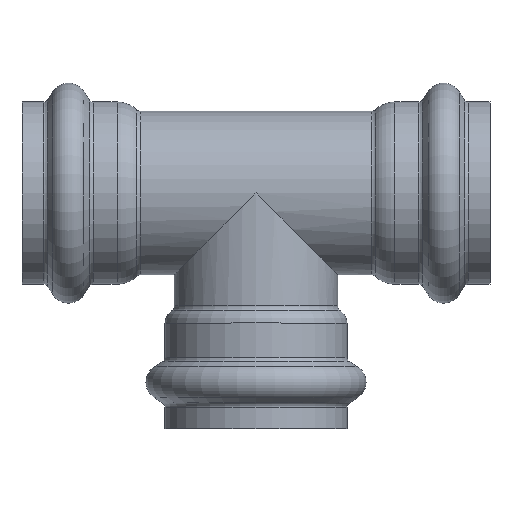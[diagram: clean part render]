
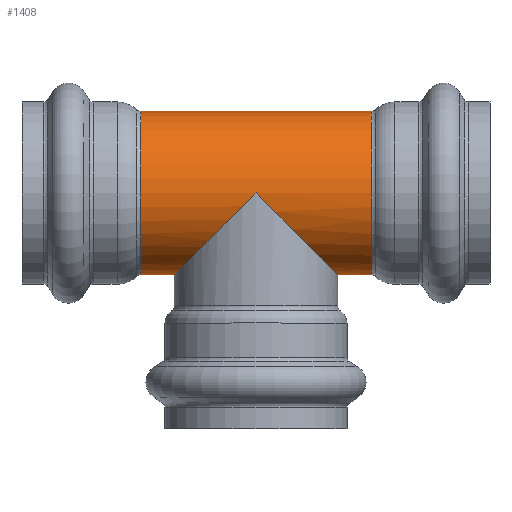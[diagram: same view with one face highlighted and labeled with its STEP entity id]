
A CAD part, top view. The second image highlights one B-rep face of the part: STEP entity #1408.
In plain terms, the highlighted cylindrical face has radius 24.13 mm (diameter 48.26 mm), a full revolution.
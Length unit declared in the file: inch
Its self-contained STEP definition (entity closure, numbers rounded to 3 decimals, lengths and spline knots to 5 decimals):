
#134=FACE_OUTER_BOUND('',#197,.T.);
#197=EDGE_LOOP('',(#1132,#1133,#1134,#1135,#1136,#1137,#1138,#1139,#1140,
#1141,#1142,#1143,#1144,#1145));
#334=CIRCLE('',#1613,0.95);
#335=CIRCLE('',#1614,0.95);
#336=CIRCLE('',#1615,0.95);
#337=CIRCLE('',#1617,0.95);
#338=CIRCLE('',#1618,0.95);
#339=CIRCLE('',#1619,0.95);
#420=LINE('',#2574,#450);
#421=LINE('',#2575,#451);
#450=VECTOR('',#2076,0.95);
#451=VECTOR('',#2077,0.95);
#464=ELLIPSE('',#1487,1.3435,0.95);
#465=ELLIPSE('',#1488,1.3435,0.95);
#466=ELLIPSE('',#1489,1.3435,0.95);
#467=ELLIPSE('',#1490,1.3435,0.95);
#492=VERTEX_POINT('',#2340);
#493=VERTEX_POINT('',#2341);
#494=VERTEX_POINT('',#2343);
#495=VERTEX_POINT('',#2345);
#572=VERTEX_POINT('',#2561);
#573=VERTEX_POINT('',#2563);
#574=VERTEX_POINT('',#2565);
#575=VERTEX_POINT('',#2569);
#576=VERTEX_POINT('',#2570);
#577=VERTEX_POINT('',#2572);
#661=EDGE_CURVE('',#492,#493,#464,.T.);
#662=EDGE_CURVE('',#494,#492,#465,.T.);
#663=EDGE_CURVE('',#495,#494,#466,.T.);
#665=EDGE_CURVE('',#493,#495,#467,.T.);
#772=EDGE_CURVE('',#573,#572,#334,.T.);
#773=EDGE_CURVE('',#574,#573,#335,.T.);
#774=EDGE_CURVE('',#572,#574,#336,.T.);
#775=EDGE_CURVE('',#575,#576,#337,.T.);
#776=EDGE_CURVE('',#577,#575,#338,.T.);
#777=EDGE_CURVE('',#577,#493,#420,.T.);
#778=EDGE_CURVE('',#494,#574,#421,.T.);
#779=EDGE_CURVE('',#576,#577,#339,.T.);
#1132=ORIENTED_EDGE('',*,*,#775,.F.);
#1133=ORIENTED_EDGE('',*,*,#776,.F.);
#1134=ORIENTED_EDGE('',*,*,#777,.T.);
#1135=ORIENTED_EDGE('',*,*,#665,.T.);
#1136=ORIENTED_EDGE('',*,*,#663,.T.);
#1137=ORIENTED_EDGE('',*,*,#778,.T.);
#1138=ORIENTED_EDGE('',*,*,#773,.T.);
#1139=ORIENTED_EDGE('',*,*,#772,.T.);
#1140=ORIENTED_EDGE('',*,*,#774,.T.);
#1141=ORIENTED_EDGE('',*,*,#778,.F.);
#1142=ORIENTED_EDGE('',*,*,#662,.T.);
#1143=ORIENTED_EDGE('',*,*,#661,.T.);
#1144=ORIENTED_EDGE('',*,*,#777,.F.);
#1145=ORIENTED_EDGE('',*,*,#779,.F.);
#1299=CYLINDRICAL_SURFACE('',#1616,0.95);
#1408=ADVANCED_FACE('',(#134),#1299,.T.);
#1487=AXIS2_PLACEMENT_3D('',#2342,#1796,#1797);
#1488=AXIS2_PLACEMENT_3D('',#2344,#1798,#1799);
#1489=AXIS2_PLACEMENT_3D('',#2346,#1800,#1801);
#1490=AXIS2_PLACEMENT_3D('',#2348,#1803,#1804);
#1613=AXIS2_PLACEMENT_3D('',#2564,#2064,#2065);
#1614=AXIS2_PLACEMENT_3D('',#2566,#2066,#2067);
#1615=AXIS2_PLACEMENT_3D('',#2567,#2068,#2069);
#1616=AXIS2_PLACEMENT_3D('',#2568,#2070,#2071);
#1617=AXIS2_PLACEMENT_3D('',#2571,#2072,#2073);
#1618=AXIS2_PLACEMENT_3D('',#2573,#2074,#2075);
#1619=AXIS2_PLACEMENT_3D('',#2576,#2078,#2079);
#1796=DIRECTION('center_axis',(0.707,0.707,0.));
#1797=DIRECTION('ref_axis',(0.707,-0.707,0.));
#1798=DIRECTION('center_axis',(-0.707,0.707,0.));
#1799=DIRECTION('ref_axis',(0.707,0.707,0.));
#1800=DIRECTION('center_axis',(-0.707,0.707,0.));
#1801=DIRECTION('ref_axis',(0.707,0.707,0.));
#1803=DIRECTION('center_axis',(0.707,0.707,0.));
#1804=DIRECTION('ref_axis',(0.707,-0.707,0.));
#2064=DIRECTION('center_axis',(1.,0.,0.));
#2065=DIRECTION('ref_axis',(0.,1.,0.));
#2066=DIRECTION('center_axis',(1.,0.,0.));
#2067=DIRECTION('ref_axis',(0.,1.,0.));
#2068=DIRECTION('center_axis',(1.,0.,0.));
#2069=DIRECTION('ref_axis',(0.,1.,0.));
#2070=DIRECTION('center_axis',(1.,0.,0.));
#2071=DIRECTION('ref_axis',(0.,1.,0.));
#2072=DIRECTION('center_axis',(1.,0.,0.));
#2073=DIRECTION('ref_axis',(0.,1.,0.));
#2074=DIRECTION('center_axis',(1.,0.,0.));
#2075=DIRECTION('ref_axis',(0.,1.,0.));
#2076=DIRECTION('',(-1.,0.,0.));
#2077=DIRECTION('',(-1.,0.,0.));
#2078=DIRECTION('center_axis',(1.,0.,0.));
#2079=DIRECTION('ref_axis',(0.,1.,0.));
#2340=CARTESIAN_POINT('',(0.,0.,0.95));
#2341=CARTESIAN_POINT('',(0.95,-0.95,0.));
#2342=CARTESIAN_POINT('Origin',(0.,0.,0.));
#2343=CARTESIAN_POINT('',(-0.95,-0.95,0.));
#2344=CARTESIAN_POINT('Origin',(0.,0.,0.));
#2345=CARTESIAN_POINT('',(0.,0.,-0.95));
#2346=CARTESIAN_POINT('Origin',(0.,0.,0.));
#2348=CARTESIAN_POINT('Origin',(0.,0.,0.));
#2561=CARTESIAN_POINT('',(-1.34035,0.,0.95));
#2563=CARTESIAN_POINT('',(-1.34035,0.95,0.));
#2564=CARTESIAN_POINT('Origin',(-1.34035,0.,0.));
#2565=CARTESIAN_POINT('',(-1.34035,-0.95,0.));
#2566=CARTESIAN_POINT('Origin',(-1.34035,0.,0.));
#2567=CARTESIAN_POINT('Origin',(-1.34035,0.,0.));
#2568=CARTESIAN_POINT('Origin',(0.67018,0.,0.));
#2569=CARTESIAN_POINT('',(1.34035,0.95,0.));
#2570=CARTESIAN_POINT('',(1.34035,0.,0.95));
#2571=CARTESIAN_POINT('Origin',(1.34035,0.,0.));
#2572=CARTESIAN_POINT('',(1.34035,-0.95,0.));
#2573=CARTESIAN_POINT('Origin',(1.34035,0.,0.));
#2574=CARTESIAN_POINT('',(0.67018,-0.95,0.));
#2575=CARTESIAN_POINT('',(0.67018,-0.95,0.));
#2576=CARTESIAN_POINT('Origin',(1.34035,0.,0.));
